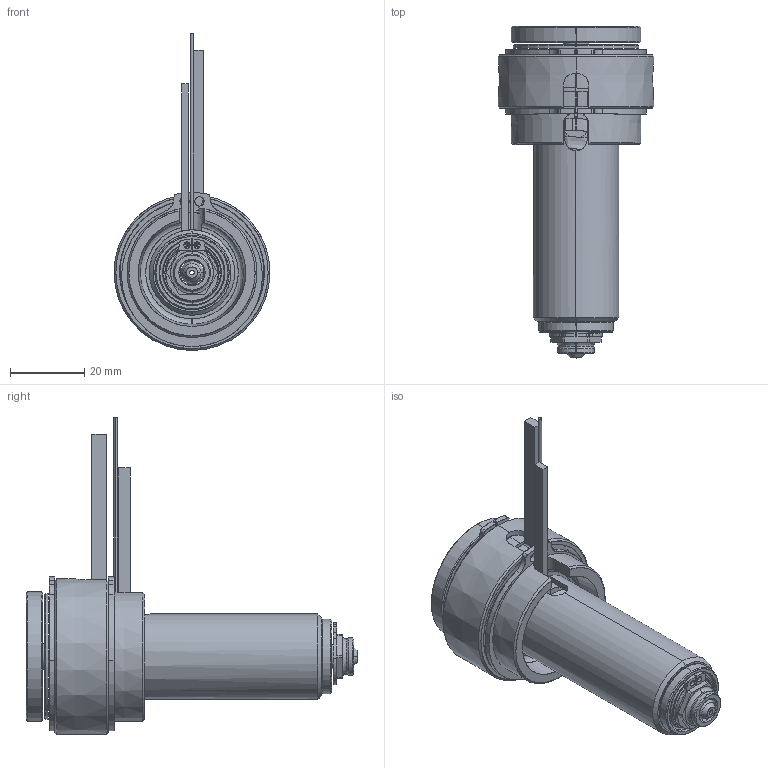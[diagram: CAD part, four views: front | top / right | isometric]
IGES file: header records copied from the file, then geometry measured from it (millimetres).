
Start section: SolidWorks IGES file using analytic representation for surfaces
Global section: file name: C:\Documents and Settings\ws-20\Desktop\TEM\UGER3551-S-A-0 [Øb-1.30  ØC-7.0].IGS; native system: SolidWorks 2012; preprocessor: SolidWorks 2012; author: ws-20; date: 120410.100305; units: millimetre
Bounding box: 42 x 89.4 x 85.4 mm (x, y, z)
Surface area: 32298.2 mm2 (no closed solid volume)
Topology: 0 solids, 0 shells, 218 faces, 3852 edges, 3852 vertices
Faces by surface type: revolution 142, bspline 76
